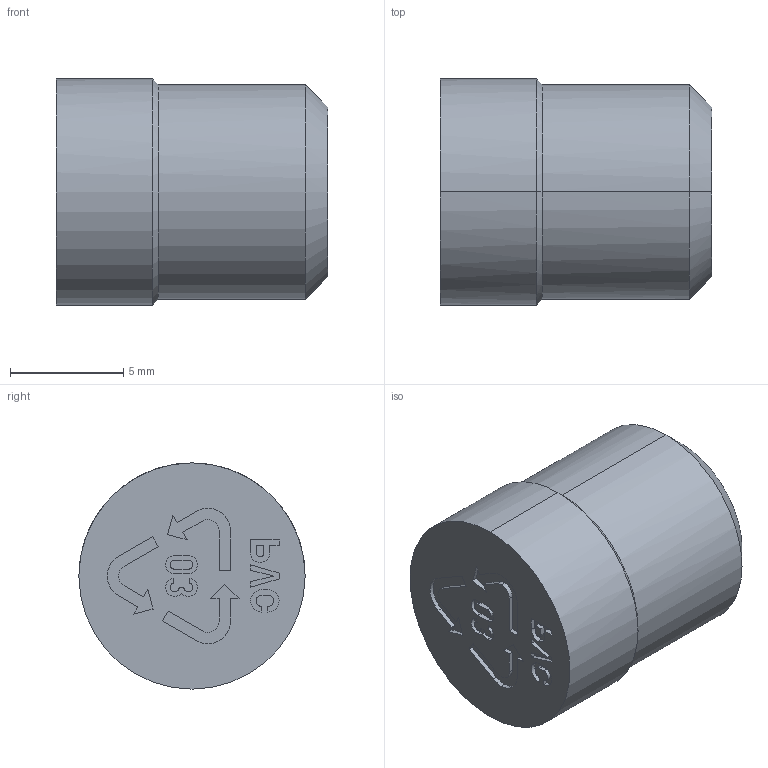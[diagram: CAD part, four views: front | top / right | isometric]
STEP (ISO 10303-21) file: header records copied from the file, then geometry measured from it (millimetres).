
FILE_DESCRIPTION(('CATIA V5 STEP Exchange'),'2;1');
FILE_NAME('C:\Users\Utente\Desktop\IO LAVORO\3D X SITO CF\X SITO\PLASTICA\CFMR\MSO310.stp','2021-03-26T13:40:50+00:00',('none'),('none'),'CATIA Version 5 Release 20 GA (IN-10)','CATIA V5 STEP AP203','none');
FILE_SCHEMA(('CONFIG_CONTROL_DESIGN'));
Length unit declared in the file: millimetre
Products named in the file (1): MSO310
Bounding box: 12 x 10 x 10 mm (x, y, z)
Volume: 811.1 mm3; surface area: 576.9 mm2
Topology: 1 solids, 1 shells, 109 faces, 297 edges, 199 vertices
Faces by surface type: plane 65, cylinder 36, cone 8
Entity records: 3480 total; most frequent: CARTESIAN_POINT 703, ORIENTED_EDGE 590, DIRECTION 500, EDGE_CURVE 295, VECTOR 203, LINE 203, VERTEX_POINT 199, AXIS2_PLACEMENT_3D 189
